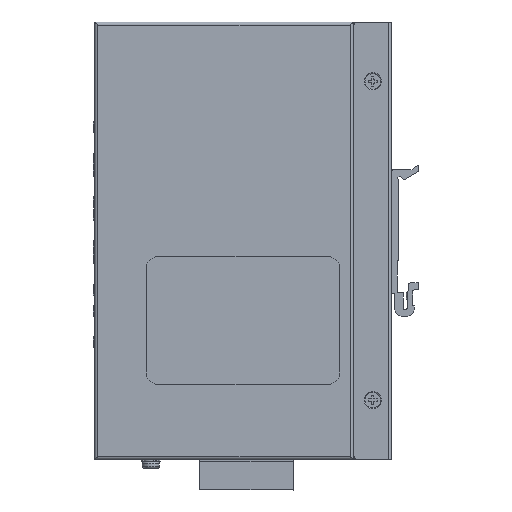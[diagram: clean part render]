
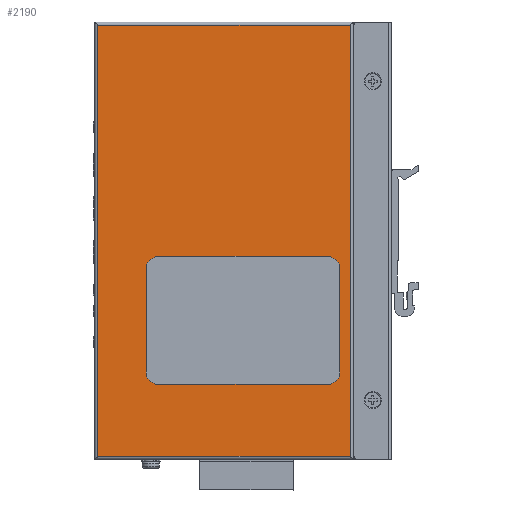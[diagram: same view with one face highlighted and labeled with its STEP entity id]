
A CAD part, front view. The second image highlights one B-rep face of the part: STEP entity #2190.
In plain terms, the highlighted planar face has unit normal (0, -1, 0).
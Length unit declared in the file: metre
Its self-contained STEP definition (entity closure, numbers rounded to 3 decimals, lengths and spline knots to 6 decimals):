
#2190 = ADVANCED_FACE( '', ( #5777, #5778 ), #5779, .T. );
#5777 = FACE_OUTER_BOUND( '', #11136, .T. );
#5778 = FACE_BOUND( '', #11137, .T. );
#5779 = PLANE( '', #11138 );
#11136 = EDGE_LOOP( '', ( #20457, #20458, #20459, #20460 ) );
#11137 = EDGE_LOOP( '', ( #20461, #20462, #20463, #20464, #20465, #20466, #20467, #20468 ) );
#11138 = AXIS2_PLACEMENT_3D( '', #20469, #20470, #20471 );
#20457 = ORIENTED_EDGE( '', *, *, #33149, .T. );
#20458 = ORIENTED_EDGE( '', *, *, #33150, .T. );
#20459 = ORIENTED_EDGE( '', *, *, #33151, .T. );
#20460 = ORIENTED_EDGE( '', *, *, #33152, .T. );
#20461 = ORIENTED_EDGE( '', *, *, #33153, .F. );
#20462 = ORIENTED_EDGE( '', *, *, #33154, .F. );
#20463 = ORIENTED_EDGE( '', *, *, #33134, .F. );
#20464 = ORIENTED_EDGE( '', *, *, #33155, .F. );
#20465 = ORIENTED_EDGE( '', *, *, #32902, .F. );
#20466 = ORIENTED_EDGE( '', *, *, #33156, .F. );
#20467 = ORIENTED_EDGE( '', *, *, #33157, .F. );
#20468 = ORIENTED_EDGE( '', *, *, #33158, .F. );
#20469 = CARTESIAN_POINT( '', ( 0., 0., -0.07 ) );
#20470 = DIRECTION( '', ( 0., -1., 0. ) );
#20471 = DIRECTION( '', ( 0., 0., -1. ) );
#32902 = EDGE_CURVE( '', #40015, #40010, #40017, .T. );
#33134 = EDGE_CURVE( '', #40401, #40396, #40403, .T. );
#33149 = EDGE_CURVE( '', #40428, #40429, #40430, .T. );
#33150 = EDGE_CURVE( '', #40429, #40431, #40432, .T. );
#33151 = EDGE_CURVE( '', #40431, #40433, #40434, .T. );
#33152 = EDGE_CURVE( '', #40433, #40428, #40435, .T. );
#33153 = EDGE_CURVE( '', #40436, #40437, #40438, .T. );
#33154 = EDGE_CURVE( '', #40396, #40436, #40439, .T. );
#33155 = EDGE_CURVE( '', #40010, #40401, #40440, .T. );
#33156 = EDGE_CURVE( '', #40441, #40015, #40442, .T. );
#33157 = EDGE_CURVE( '', #40443, #40441, #40444, .T. );
#33158 = EDGE_CURVE( '', #40437, #40443, #40445, .T. );
#40010 = VERTEX_POINT( '', #50459 );
#40015 = VERTEX_POINT( '', #50466 );
#40017 = LINE( '', #50469, #50470 );
#40396 = VERTEX_POINT( '', #51032 );
#40401 = VERTEX_POINT( '', #51039 );
#40403 = LINE( '', #51042, #51043 );
#40428 = VERTEX_POINT( '', #51074 );
#40429 = VERTEX_POINT( '', #51075 );
#40430 = LINE( '', #51076, #51077 );
#40431 = VERTEX_POINT( '', #51078 );
#40432 = LINE( '', #51079, #51080 );
#40433 = VERTEX_POINT( '', #51081 );
#40434 = LINE( '', #51082, #51083 );
#40435 = LINE( '', #51084, #51085 );
#40436 = VERTEX_POINT( '', #51086 );
#40437 = VERTEX_POINT( '', #51087 );
#40438 = LINE( '', #51088, #51089 );
#40439 = CIRCLE( '', #51090, 0.004 );
#40440 = CIRCLE( '', #51091, 0.004 );
#40441 = VERTEX_POINT( '', #51092 );
#40442 = CIRCLE( '', #51093, 0.004 );
#40443 = VERTEX_POINT( '', #51094 );
#40444 = LINE( '', #51095, #51096 );
#40445 = CIRCLE( '', #51097, 0.004 );
#50459 = CARTESIAN_POINT( '', ( 0.0165, 0., -0.042 ) );
#50466 = CARTESIAN_POINT( '', ( 0.0165, 0., -0.009 ) );
#50469 = CARTESIAN_POINT( '', ( 0.0165, 0., -0.009 ) );
#50470 = VECTOR( '', #63207, 1. );
#51032 = CARTESIAN_POINT( '', ( 0.0745, 0., -0.046 ) );
#51039 = CARTESIAN_POINT( '', ( 0.0205, 0., -0.046 ) );
#51042 = CARTESIAN_POINT( '', ( 0.0205, 0., -0.046 ) );
#51043 = VECTOR( '', #63474, 1. );
#51074 = CARTESIAN_POINT( '', ( 0.0818, 0., 0.069 ) );
#51075 = CARTESIAN_POINT( '', ( 0.001, 0., 0.069 ) );
#51076 = CARTESIAN_POINT( '', ( 0.0818, 0., 0.069 ) );
#51077 = VECTOR( '', #63493, 1. );
#51078 = CARTESIAN_POINT( '', ( 0.001, 0., -0.069 ) );
#51079 = CARTESIAN_POINT( '', ( 0.001, 0., 0.069 ) );
#51080 = VECTOR( '', #63494, 1. );
#51081 = CARTESIAN_POINT( '', ( 0.0818, 0., -0.069 ) );
#51082 = CARTESIAN_POINT( '', ( 0.001, 0., -0.069 ) );
#51083 = VECTOR( '', #63495, 1. );
#51084 = CARTESIAN_POINT( '', ( 0.0818, 0., -0.069 ) );
#51085 = VECTOR( '', #63496, 1. );
#51086 = CARTESIAN_POINT( '', ( 0.0785, 0., -0.042 ) );
#51087 = CARTESIAN_POINT( '', ( 0.0785, 0., -0.009 ) );
#51088 = CARTESIAN_POINT( '', ( 0.0785, 0., -0.042 ) );
#51089 = VECTOR( '', #63497, 1. );
#51090 = AXIS2_PLACEMENT_3D( '', #63498, #63499, #63500 );
#51091 = AXIS2_PLACEMENT_3D( '', #63501, #63502, #63503 );
#51092 = CARTESIAN_POINT( '', ( 0.0205, 0., -0.005 ) );
#51093 = AXIS2_PLACEMENT_3D( '', #63504, #63505, #63506 );
#51094 = CARTESIAN_POINT( '', ( 0.0745, 0., -0.005 ) );
#51095 = CARTESIAN_POINT( '', ( 0.0745, 0., -0.005 ) );
#51096 = VECTOR( '', #63507, 1. );
#51097 = AXIS2_PLACEMENT_3D( '', #63508, #63509, #63510 );
#63207 = DIRECTION( '', ( 0., 0., -1. ) );
#63474 = DIRECTION( '', ( 1., 0., 0. ) );
#63493 = DIRECTION( '', ( -1., 0., 0. ) );
#63494 = DIRECTION( '', ( 0., 0., -1. ) );
#63495 = DIRECTION( '', ( 1., 0., 0. ) );
#63496 = DIRECTION( '', ( 0., 0., 1. ) );
#63497 = DIRECTION( '', ( 0., 0., 1. ) );
#63498 = CARTESIAN_POINT( '', ( 0.0745, 0., -0.042 ) );
#63499 = DIRECTION( '', ( 0., -1., 0. ) );
#63500 = DIRECTION( '', ( 0., 0., -1. ) );
#63501 = CARTESIAN_POINT( '', ( 0.0205, 0., -0.042 ) );
#63502 = DIRECTION( '', ( 0., -1., 0. ) );
#63503 = DIRECTION( '', ( -1., 0., 0. ) );
#63504 = CARTESIAN_POINT( '', ( 0.0205, 0., -0.009 ) );
#63505 = DIRECTION( '', ( 0., -1., 0. ) );
#63506 = DIRECTION( '', ( 0., 0., 1. ) );
#63507 = DIRECTION( '', ( -1., 0., 0. ) );
#63508 = CARTESIAN_POINT( '', ( 0.0745, 0., -0.009 ) );
#63509 = DIRECTION( '', ( 0., -1., 0. ) );
#63510 = DIRECTION( '', ( 1., 0., 0. ) );
